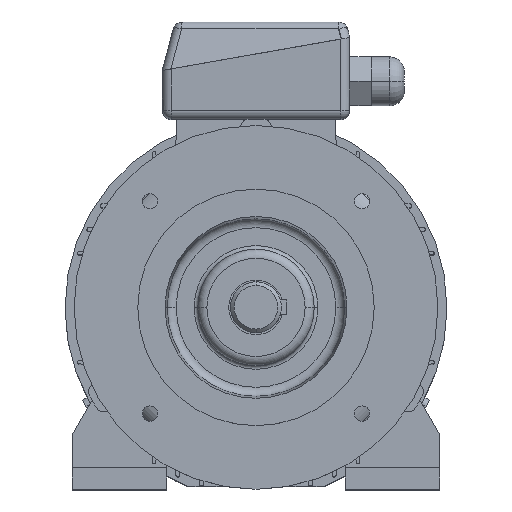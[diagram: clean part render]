
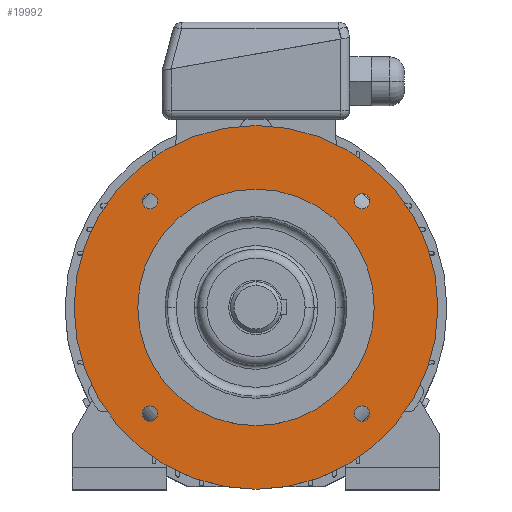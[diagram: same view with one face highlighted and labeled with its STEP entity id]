
A CAD part, top view. The second image highlights one B-rep face of the part: STEP entity #19992.
In plain terms, the highlighted planar face has unit normal (0, 0, 1).
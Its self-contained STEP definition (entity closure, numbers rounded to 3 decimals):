
#255 = ORIENTED_EDGE ( 'NONE', *, *, #27468, .F. ) ;
#16828 = EDGE_LOOP ( 'NONE', ( #3967, #3312 ) ) ;
#565 = VERTEX_POINT ( 'NONE', #19122 ) ;
#17125 = EDGE_CURVE ( 'NONE', #8853, #9352, #14786, .T. ) ;
#17285 = FACE_BOUND ( 'NONE', #19479, .T. ) ;
#17296 = FACE_OUTER_BOUND ( 'NONE', #16828, .T. ) ;
#913 = EDGE_LOOP ( 'NONE', ( #255, #26546 ) ) ;
#17297 = FACE_BOUND ( 'NONE', #3025, .T. ) ;
#17298 = FACE_BOUND ( 'NONE', #913, .T. ) ;
#17299 = FACE_BOUND ( 'NONE', #26040, .T. ) ;
#17300 = FACE_BOUND ( 'NONE', #8620, .T. ) ;
#17301 = PLANE ( 'NONE',  #17302 ) ;
#17302 = AXIS2_PLACEMENT_3D ( 'NONE', #17303, #17304, #17305 ) ;
#17303 = CARTESIAN_POINT ( 'NONE',  ( -100., 0., 45. ) ) ;
#17304 = DIRECTION ( 'NONE',  ( 0., 0., 1. ) ) ;
#17305 = DIRECTION ( 'NONE',  ( 1., 0., 0. ) ) ;
#1076 = EDGE_CURVE ( 'NONE', #17882, #12222, #19948, .T. ) ;
#1230 = ORIENTED_EDGE ( 'NONE', *, *, #25395, .F. ) ;
#17617 = ORIENTED_EDGE ( 'NONE', *, *, #17125, .T. ) ;
#17882 = VERTEX_POINT ( 'NONE', #15635 ) ;
#1876 = CARTESIAN_POINT ( 'NONE',  ( -62.536, -58.336, 45. ) ) ;
#1896 = EDGE_CURVE ( 'NONE', #8293, #6077, #21748, .T. ) ;
#18355 = ORIENTED_EDGE ( 'NONE', *, *, #9638, .T. ) ;
#2351 = ORIENTED_EDGE ( 'NONE', *, *, #1896, .F. ) ;
#19122 = CARTESIAN_POINT ( 'NONE',  ( 62.536, 58.336, 45. ) ) ;
#3025 = EDGE_LOOP ( 'NONE', ( #2351, #1230 ) ) ;
#19479 = EDGE_LOOP ( 'NONE', ( #18355, #17617 ) ) ;
#3312 = ORIENTED_EDGE ( 'NONE', *, *, #23053, .F. ) ;
#3465 = CIRCLE ( 'NONE', #3471, 4.2 ) ;
#3471 = AXIS2_PLACEMENT_3D ( 'NONE', #3472, #3473, #3474 ) ;
#3472 = CARTESIAN_POINT ( 'NONE',  ( -58.336, 58.336, 45. ) ) ;
#3473 = DIRECTION ( 'NONE',  ( 0., 0., 1. ) ) ;
#3474 = DIRECTION ( 'NONE',  ( 1., 0., 0. ) ) ;
#19948 = CIRCLE ( 'NONE', #19949, 4.2 ) ;
#19949 = AXIS2_PLACEMENT_3D ( 'NONE', #19950, #19951, #19952 ) ;
#19950 = CARTESIAN_POINT ( 'NONE',  ( -58.336, 58.336, 45. ) ) ;
#19951 = DIRECTION ( 'NONE',  ( 0., 0., 1. ) ) ;
#19952 = DIRECTION ( 'NONE',  ( 1., 0., 0. ) ) ;
#19992 = ADVANCED_FACE ( 'NONE', ( #17285, #17296, #17297, #17298, #17299, #17300 ), #17301, .T. ) ;
#20332 = CIRCLE ( 'NONE', #20333, 100. ) ;
#20333 = AXIS2_PLACEMENT_3D ( 'NONE', #20334, #20335, #20336 ) ;
#20334 = CARTESIAN_POINT ( 'NONE',  ( 0., 0., 45. ) ) ;
#20335 = DIRECTION ( 'NONE',  ( 0., 0., -1. ) ) ;
#20336 = DIRECTION ( 'NONE',  ( -1., 0., 0. ) ) ;
#3967 = ORIENTED_EDGE ( 'NONE', *, *, #16198, .F. ) ;
#4439 = CARTESIAN_POINT ( 'NONE',  ( -54.136, -58.336, 45. ) ) ;
#4640 = CARTESIAN_POINT ( 'NONE',  ( 54.136, 58.336, 45. ) ) ;
#4929 = CARTESIAN_POINT ( 'NONE',  ( 65., 0., 45. ) ) ;
#21748 = CIRCLE ( 'NONE', #21749, 4.2 ) ;
#21749 = AXIS2_PLACEMENT_3D ( 'NONE', #21750, #21751, #21752 ) ;
#21750 = CARTESIAN_POINT ( 'NONE',  ( -58.336, -58.336, 45. ) ) ;
#21751 = DIRECTION ( 'NONE',  ( 0., 0., 1. ) ) ;
#21752 = DIRECTION ( 'NONE',  ( 1., 0., 0. ) ) ;
#5958 = CARTESIAN_POINT ( 'NONE',  ( -65., 0., 45. ) ) ;
#6077 = VERTEX_POINT ( 'NONE', #1876 ) ;
#6144 = CIRCLE ( 'NONE', #6145, 4.2 ) ;
#6145 = AXIS2_PLACEMENT_3D ( 'NONE', #6146, #6158, #6159 ) ;
#6146 = CARTESIAN_POINT ( 'NONE',  ( 58.336, 58.336, 45. ) ) ;
#6158 = DIRECTION ( 'NONE',  ( 0., 0., 1. ) ) ;
#6159 = DIRECTION ( 'NONE',  ( 1., 0., 0. ) ) ;
#6207 = CIRCLE ( 'NONE', #6208, 65. ) ;
#6208 = AXIS2_PLACEMENT_3D ( 'NONE', #6209, #6210, #6211 ) ;
#6209 = CARTESIAN_POINT ( 'NONE',  ( 0., 0., 45. ) ) ;
#6210 = DIRECTION ( 'NONE',  ( 0., 0., -1. ) ) ;
#6211 = DIRECTION ( 'NONE',  ( -1., 0., 0. ) ) ;
#22723 = CIRCLE ( 'NONE', #22724, 4.2 ) ;
#22724 = AXIS2_PLACEMENT_3D ( 'NONE', #22725, #22726, #22727 ) ;
#22725 = CARTESIAN_POINT ( 'NONE',  ( 58.336, 58.336, 45. ) ) ;
#22726 = DIRECTION ( 'NONE',  ( 0., 0., 1. ) ) ;
#22727 = DIRECTION ( 'NONE',  ( 1., 0., 0. ) ) ;
#22925 = CIRCLE ( 'NONE', #22926, 4.2 ) ;
#22926 = AXIS2_PLACEMENT_3D ( 'NONE', #22927, #22928, #22929 ) ;
#22927 = CARTESIAN_POINT ( 'NONE',  ( -58.336, -58.336, 45. ) ) ;
#22928 = DIRECTION ( 'NONE',  ( 0., 0., 1. ) ) ;
#22929 = DIRECTION ( 'NONE',  ( 1., 0., 0. ) ) ;
#23053 = EDGE_CURVE ( 'NONE', #16119, #16239, #20332, .T. ) ;
#6814 = ORIENTED_EDGE ( 'NONE', *, *, #1076, .F. ) ;
#7487 = EDGE_CURVE ( 'NONE', #12222, #17882, #3465, .T. ) ;
#7669 = CARTESIAN_POINT ( 'NONE',  ( 54.136, -58.336, 45. ) ) ;
#7963 = ORIENTED_EDGE ( 'NONE', *, *, #7487, .F. ) ;
#8293 = VERTEX_POINT ( 'NONE', #4439 ) ;
#8550 = VERTEX_POINT ( 'NONE', #4640 ) ;
#8620 = EDGE_LOOP ( 'NONE', ( #7963, #6814 ) ) ;
#25129 = EDGE_CURVE ( 'NONE', #8550, #565, #22723, .T. ) ;
#8853 = VERTEX_POINT ( 'NONE', #4929 ) ;
#25236 = CIRCLE ( 'NONE', #25237, 4.2 ) ;
#25237 = AXIS2_PLACEMENT_3D ( 'NONE', #25256, #25257, #25258 ) ;
#25256 = CARTESIAN_POINT ( 'NONE',  ( 58.336, -58.336, 45. ) ) ;
#25257 = DIRECTION ( 'NONE',  ( 0., 0., 1. ) ) ;
#25258 = DIRECTION ( 'NONE',  ( 1., 0., 0. ) ) ;
#8931 = ORIENTED_EDGE ( 'NONE', *, *, #25129, .F. ) ;
#25395 = EDGE_CURVE ( 'NONE', #6077, #8293, #22925, .T. ) ;
#9309 = CARTESIAN_POINT ( 'NONE',  ( -54.136, 58.336, 45. ) ) ;
#9352 = VERTEX_POINT ( 'NONE', #5958 ) ;
#25913 = CIRCLE ( 'NONE', #25914, 4.2 ) ;
#25914 = AXIS2_PLACEMENT_3D ( 'NONE', #25915, #25916, #25917 ) ;
#25915 = CARTESIAN_POINT ( 'NONE',  ( 58.336, -58.336, 45. ) ) ;
#25916 = DIRECTION ( 'NONE',  ( 0., 0., 1. ) ) ;
#25917 = DIRECTION ( 'NONE',  ( 1., 0., 0. ) ) ;
#9587 = EDGE_CURVE ( 'NONE', #565, #8550, #6144, .T. ) ;
#9638 = EDGE_CURVE ( 'NONE', #9352, #8853, #6207, .T. ) ;
#26040 = EDGE_LOOP ( 'NONE', ( #10059, #8931 ) ) ;
#10059 = ORIENTED_EDGE ( 'NONE', *, *, #9587, .F. ) ;
#26546 = ORIENTED_EDGE ( 'NONE', *, *, #27058, .F. ) ;
#10351 = CARTESIAN_POINT ( 'NONE',  ( 62.536, -58.336, 45. ) ) ;
#27058 = EDGE_CURVE ( 'NONE', #11015, #13172, #25236, .T. ) ;
#11015 = VERTEX_POINT ( 'NONE', #7669 ) ;
#27468 = EDGE_CURVE ( 'NONE', #13172, #11015, #25913, .T. ) ;
#12222 = VERTEX_POINT ( 'NONE', #9309 ) ;
#13172 = VERTEX_POINT ( 'NONE', #10351 ) ;
#13675 = CARTESIAN_POINT ( 'NONE',  ( 100., 0., 45. ) ) ;
#13787 = CIRCLE ( 'NONE', #13791, 100. ) ;
#13791 = AXIS2_PLACEMENT_3D ( 'NONE', #13792, #13793, #13794 ) ;
#13792 = CARTESIAN_POINT ( 'NONE',  ( 0., 0., 45. ) ) ;
#13793 = DIRECTION ( 'NONE',  ( 0., 0., -1. ) ) ;
#13794 = DIRECTION ( 'NONE',  ( -1., 0., 0. ) ) ;
#13828 = CARTESIAN_POINT ( 'NONE',  ( -100., 0., 45. ) ) ;
#14786 = CIRCLE ( 'NONE', #14796, 65. ) ;
#14796 = AXIS2_PLACEMENT_3D ( 'NONE', #14797, #14798, #14799 ) ;
#14797 = CARTESIAN_POINT ( 'NONE',  ( 0., 0., 45. ) ) ;
#14798 = DIRECTION ( 'NONE',  ( 0., 0., -1. ) ) ;
#14799 = DIRECTION ( 'NONE',  ( -1., 0., 0. ) ) ;
#15635 = CARTESIAN_POINT ( 'NONE',  ( -62.536, 58.336, 45. ) ) ;
#16119 = VERTEX_POINT ( 'NONE', #13675 ) ;
#16198 = EDGE_CURVE ( 'NONE', #16239, #16119, #13787, .T. ) ;
#16239 = VERTEX_POINT ( 'NONE', #13828 ) ;
